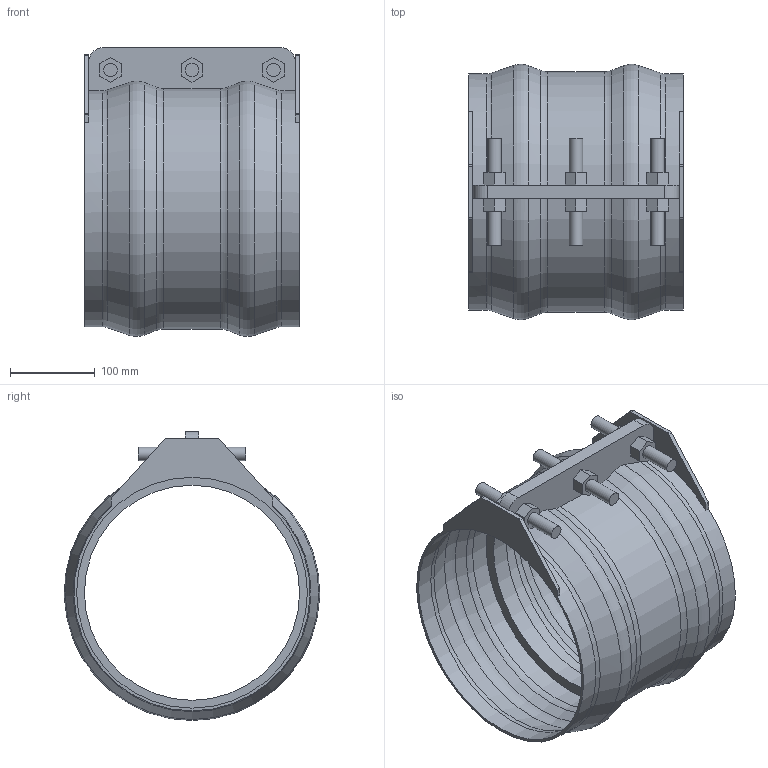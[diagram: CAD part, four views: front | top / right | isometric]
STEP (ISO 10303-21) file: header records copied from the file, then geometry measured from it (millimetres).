
FILE_DESCRIPTION(/* description */ ('VIC SS NON RESTRAINED COUPLING STYLE 229S (FLEX) (BEF)','CAx-IF Rec.Pracs.---Representation and Presentation of Product Manufacturing Information (PMI)---4.0---2014-10-13'),/* implementation_level */ '2;1');
FILE_NAME(/* name */ 'C:\Users\Vjadhav\Desktop\CAD for Inventor\1\229S\STEP\Victaulic_VBSP_Coupling Flexible Non-Restrained_Style 229S (BEF)\Victaulic_VBSP_Coupling Flexible Non-Restrained_Style 229S (BEF)_10 (250).stp',/* time_stamp */ '2021-08-26T18:16:54+06:00',/* author */ ('Vjadhav'),/* organization */ ('Victaulic'),/* preprocessor_version */ 'ST-DEVELOPER v17.2',/* originating_system */ 'Autodesk Inventor 2019',/* authorisation */ '');
FILE_SCHEMA (('AP242_MANAGED_MODEL_BASED_3D_ENGINEERING_MIM_LF { 1 0 10303 442 1 1 4 }'));
Length unit declared in the file: inch
Products named in the file (1): 229S-10.0
Bounding box: 254 x 302.28 x 342.02 mm (x, y, z)
Volume: 1231551.8 mm3; surface area: 557659.5 mm2
Topology: 1 solids, 1 shells, 111 faces, 301 edges, 206 vertices
Faces by surface type: plane 67, cylinder 24, torus 12, cone 8
Full cylindrical faces by diameter (mm): 15.875 x6, 254.508 x1, 273.05 x2, 279.4 x2
Entity records: 3858 total; most frequent: CARTESIAN_POINT 732, DIRECTION 633, ORIENTED_EDGE 602, EDGE_CURVE 301, AXIS2_PLACEMENT_3D 227, VERTEX_POINT 206, LINE 179, VECTOR 179
